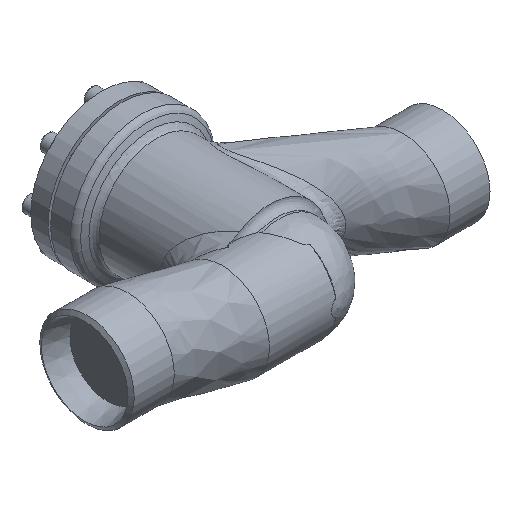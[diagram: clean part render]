
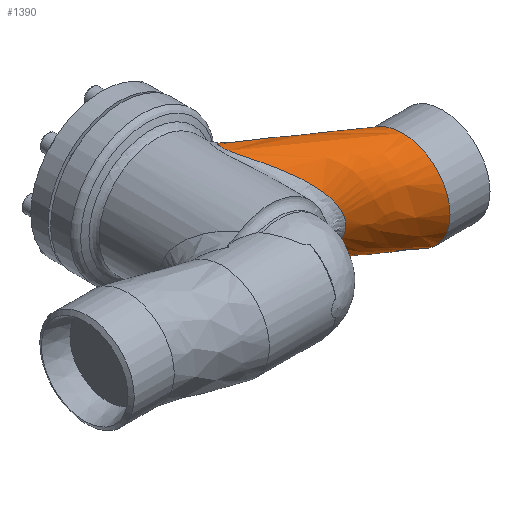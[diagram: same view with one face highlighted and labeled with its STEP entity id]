
A CAD part, isometric view. The second image highlights one B-rep face of the part: STEP entity #1390.
In plain terms, the highlighted free-form (B-spline) face has degree [1, 2] with [2, 9] control points.
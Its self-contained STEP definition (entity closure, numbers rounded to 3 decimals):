
#1110=CARTESIAN_POINT('',(30.885,85.192,37.589));
#1111=VERTEX_POINT('',#1110);
#1119=CARTESIAN_POINT('',(47.211,54.902,28.889));
#1120=VERTEX_POINT('',#1119);
#1121=CARTESIAN_POINT('',(30.886,85.193,37.588));
#1122=CARTESIAN_POINT('',(30.886,85.193,37.588));
#1123=CARTESIAN_POINT('',(30.886,85.193,37.588));
#1124=CARTESIAN_POINT('',(30.886,85.193,37.588));
#1125=CARTESIAN_POINT('',(29.626,88.465,37.965));
#1126=CARTESIAN_POINT('',(28.154,93.501,38.269));
#1127=CARTESIAN_POINT('',(28.711,99.675,37.512));
#1128=CARTESIAN_POINT('',(31.217,104.754,35.734));
#1129=CARTESIAN_POINT('',(35.354,108.104,32.591));
#1130=CARTESIAN_POINT('',(39.383,110.546,28.479));
#1131=CARTESIAN_POINT('',(43.868,112.863,22.92));
#1132=CARTESIAN_POINT('',(47.633,114.486,15.786));
#1133=CARTESIAN_POINT('',(49.815,115.397,7.219));
#1134=CARTESIAN_POINT('',(50.434,115.644,0.673));
#1135=CARTESIAN_POINT('',(50.008,115.477,-5.996));
#1136=CARTESIAN_POINT('',(48.103,114.681,-14.548));
#1137=CARTESIAN_POINT('',(44.752,113.26,-21.391));
#1138=CARTESIAN_POINT('',(39.904,110.841,-28.008));
#1139=CARTESIAN_POINT('',(36.431,108.874,-31.553));
#1140=CARTESIAN_POINT('',(33.124,106.181,-34.271));
#1141=CARTESIAN_POINT('',(31.283,104.234,-35.665));
#1142=CARTESIAN_POINT('',(29.787,101.962,-36.742));
#1143=CARTESIAN_POINT('',(28.421,98.37,-37.767));
#1144=CARTESIAN_POINT('',(28.359,93.08,-38.2));
#1145=CARTESIAN_POINT('',(30.902,84.268,-37.681));
#1146=CARTESIAN_POINT('',(36.225,73.527,-35.757));
#1147=CARTESIAN_POINT('',(43.356,61.186,-31.983));
#1148=CARTESIAN_POINT('',(50.498,49.513,-26.437));
#1149=CARTESIAN_POINT('',(55.883,40.84,-19.939));
#1150=CARTESIAN_POINT('',(59.335,35.3,-13.125));
#1151=CARTESIAN_POINT('',(61.17,32.354,-7.232));
#1152=CARTESIAN_POINT('',(61.948,31.104,-0.648));
#1153=CARTESIAN_POINT('',(61.422,31.949,5.968));
#1154=CARTESIAN_POINT('',(59.753,34.63,12.058));
#1155=CARTESIAN_POINT('',(56.473,39.891,19.054));
#1156=CARTESIAN_POINT('',(52.112,46.915,24.589));
#1157=CARTESIAN_POINT('',(48.516,52.756,27.836));
#1158=CARTESIAN_POINT('',(47.21,54.899,28.892));
#1159=B_SPLINE_CURVE_WITH_KNOTS('',3,(#1121,#1122,#1123,#1124,#1125,#1126,#1127,#1128,#1129,#1130,#1131,#1132,#1133,#1134,#1135,#1136,#1137,#1138,#1139,#1140,#1141,#1142,#1143,#1144,#1145,#1146,#1147,#1148,#1149,#1150,#1151,#1152,#1153,#1154,#1155,#1156,#1157,#1158),.UNSPECIFIED.,.F.,.U.,(4,3,1,1,1,1,1,1,1,1,1,1,1,1,1,1,1,1,1,1,1,1,1,1,1,1,1,1,1,1,1,1,1,4),(20.673,20.673,21.871,22.47,23.069,24.267,24.866,25.465,27.062,27.861,28.659,29.458,30.257,31.854,32.253,33.451,33.851,34.25,34.649,35.048,35.847,36.646,38.243,39.84,41.438,43.035,43.834,44.632,45.431,46.229,47.028,47.827,49.424,50.314),.UNSPECIFIED.);
#1160=EDGE_CURVE('',#1111,#1120,#1159,.T.);
#1162=CARTESIAN_POINT('',(47.21,54.899,28.892));
#1163=CARTESIAN_POINT('',(45.,58.526,30.679));
#1164=CARTESIAN_POINT('',(40.934,65.309,33.342));
#1165=CARTESIAN_POINT('',(36.112,73.91,35.679));
#1166=CARTESIAN_POINT('',(32.915,80.329,36.936));
#1167=CARTESIAN_POINT('',(31.516,83.557,37.4));
#1168=CARTESIAN_POINT('',(30.886,85.193,37.588));
#1169=B_SPLINE_CURVE_WITH_KNOTS('',3,(#1162,#1163,#1164,#1165,#1166,#1167,#1168),.UNSPECIFIED.,.F.,.U.,(4,1,1,1,4),(16.771,18.277,19.475,20.074,20.673),.UNSPECIFIED.);
#1170=EDGE_CURVE('',#1120,#1111,#1169,.T.);
#1340=CARTESIAN_POINT('',(17.699,100.33,38.05));
#1341=CARTESIAN_POINT('',(128.878,22.482,38.05));
#1342=CARTESIAN_POINT('',(35.577,125.862,38.05));
#1343=CARTESIAN_POINT('',(146.755,48.014,38.05));
#1344=CARTESIAN_POINT('',(35.577,125.862,0.));
#1345=CARTESIAN_POINT('',(146.755,48.014,0.));
#1346=CARTESIAN_POINT('',(35.577,125.862,-38.05));
#1347=CARTESIAN_POINT('',(146.755,48.014,-38.05));
#1348=CARTESIAN_POINT('',(17.699,100.33,-38.05));
#1349=CARTESIAN_POINT('',(128.878,22.482,-38.05));
#1350=CARTESIAN_POINT('',(-0.179,74.798,-38.05));
#1351=CARTESIAN_POINT('',(111.,-3.05,-38.05));
#1352=CARTESIAN_POINT('',(-0.179,74.798,0.));
#1353=CARTESIAN_POINT('',(111.,-3.05,0.));
#1354=CARTESIAN_POINT('',(-0.179,74.798,38.05));
#1355=CARTESIAN_POINT('',(111.,-3.05,38.05));
#1356=CARTESIAN_POINT('',(17.699,100.33,38.05));
#1357=CARTESIAN_POINT('',(128.878,22.482,38.05));
#1365=(BOUNDED_SURFACE()B_SPLINE_SURFACE(1,2,((#1340,#1342,#1344,#1346,#1348,#1350,#1352,#1354,#1356),(#1341,#1343,#1345,#1347,#1349,#1351,#1353,#1355,#1357)),.UNSPECIFIED.,.F.,.T.,.U.)B_SPLINE_SURFACE_WITH_KNOTS((2,2),(3,2,2,2,3),(-2.993,0.574),(0.0,59.769,119.538,179.306,239.075),.UNSPECIFIED.)GEOMETRIC_REPRESENTATION_ITEM()RATIONAL_B_SPLINE_SURFACE(((1.0,0.707,1.0,0.707,1.0,0.707,1.0,0.707,1.0),(1.0,0.707,1.0,0.707,1.0,0.707,1.0,0.707,1.0)))REPRESENTATION_ITEM('')SURFACE());
#1366=CARTESIAN_POINT('',(111.0,35.,-38.05));
#1367=VERTEX_POINT('',#1366);
#1368=CARTESIAN_POINT('',(111.0,35.,38.05));
#1369=VERTEX_POINT('',#1368);
#1370=CARTESIAN_POINT('',(111.0,35.,0.0));
#1371=DIRECTION('',(1.0,0.0,0.0));
#1372=DIRECTION('',(0.0,-1.0,0.0));
#1373=AXIS2_PLACEMENT_3D('',#1370,#1371,#1372);
#1374=CIRCLE('',#1373,38.05);
#1375=EDGE_CURVE('',#1367,#1369,#1374,.T.);
#1376=ORIENTED_EDGE('',*,*,#1375,.F.);
#1377=CARTESIAN_POINT('',(111.0,35.,0.0));
#1378=DIRECTION('',(1.0,0.0,0.0));
#1379=DIRECTION('',(0.0,-1.0,0.0));
#1380=AXIS2_PLACEMENT_3D('',#1377,#1378,#1379);
#1381=CIRCLE('',#1380,38.05);
#1382=EDGE_CURVE('',#1369,#1367,#1381,.T.);
#1383=ORIENTED_EDGE('',*,*,#1382,.F.);
#1384=EDGE_LOOP('',(#1376,#1383));
#1385=FACE_OUTER_BOUND('',#1384,.T.);
#1386=ORIENTED_EDGE('',*,*,#1160,.F.);
#1387=ORIENTED_EDGE('',*,*,#1170,.F.);
#1388=EDGE_LOOP('',(#1386,#1387));
#1389=FACE_BOUND('',#1388,.T.);
#1390=ADVANCED_FACE('',(#1385,#1389),#1365,.T.);
